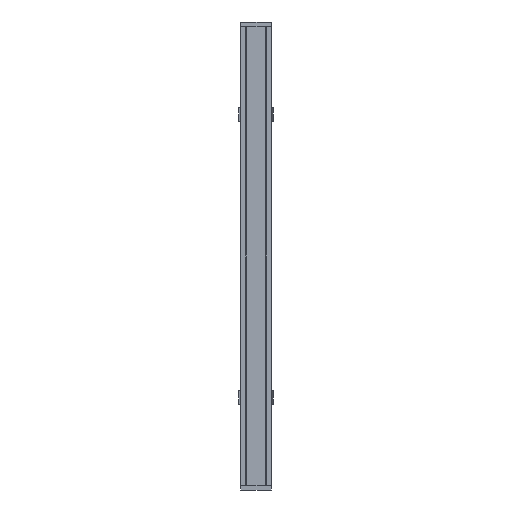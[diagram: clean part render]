
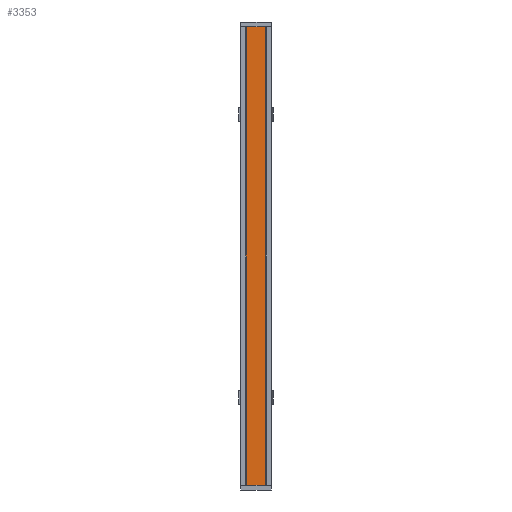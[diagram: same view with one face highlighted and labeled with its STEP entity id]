
A CAD part, front view. The second image highlights one B-rep face of the part: STEP entity #3353.
In plain terms, the highlighted planar face has unit normal (0, -1, 0).
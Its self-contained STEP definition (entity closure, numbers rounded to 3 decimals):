
#180 = ORIENTED_EDGE ( 'NONE', *, *, #4631, .F. ) ;
#300 = VERTEX_POINT ( 'NONE', #4969 ) ;
#352 = LINE ( 'NONE', #8839, #8282 ) ;
#551 = DIRECTION ( 'NONE',  ( 0., 0., -1. ) ) ;
#902 = ORIENTED_EDGE ( 'NONE', *, *, #5604, .T. ) ;
#1052 = CARTESIAN_POINT ( 'NONE',  ( 23.6, 1., 562. ) ) ;
#1186 = PLANE ( 'NONE',  #6469 ) ;
#1262 = CARTESIAN_POINT ( 'NONE',  ( -23.6, 1., -562. ) ) ;
#1294 = DIRECTION ( 'NONE',  ( 1., 0., 0. ) ) ;
#1859 = CARTESIAN_POINT ( 'NONE',  ( -23.6, 1., 562. ) ) ;
#2216 = DIRECTION ( 'NONE',  ( 0., 1., 0. ) ) ;
#2525 = VECTOR ( 'NONE', #551, 1000. ) ;
#2900 = VERTEX_POINT ( 'NONE', #1859 ) ;
#3353 = ADVANCED_FACE ( 'NONE', ( #6978 ), #1186, .F. ) ;
#3464 = EDGE_CURVE ( 'NONE', #300, #9661, #6385, .T. ) ;
#3507 = ORIENTED_EDGE ( 'NONE', *, *, #9556, .F. ) ;
#3740 = EDGE_LOOP ( 'NONE', ( #9741, #3507, #180, #902 ) ) ;
#4083 = DIRECTION ( 'NONE',  ( 0., 0., 1. ) ) ;
#4091 = VERTEX_POINT ( 'NONE', #1052 ) ;
#4631 = EDGE_CURVE ( 'NONE', #2900, #4091, #11059, .T. ) ;
#4969 = CARTESIAN_POINT ( 'NONE',  ( -23.6, 1., -562. ) ) ;
#5604 = EDGE_CURVE ( 'NONE', #2900, #300, #8920, .T. ) ;
#6385 = LINE ( 'NONE', #1262, #10361 ) ;
#6469 = AXIS2_PLACEMENT_3D ( 'NONE', #7664, #2216, #4083 ) ;
#6978 = FACE_OUTER_BOUND ( 'NONE', #3740, .T. ) ;
#7130 = DIRECTION ( 'NONE',  ( 0., 0., -1. ) ) ;
#7664 = CARTESIAN_POINT ( 'NONE',  ( -23.6, 1., 562. ) ) ;
#7982 = CARTESIAN_POINT ( 'NONE',  ( -23.6, 1., 562. ) ) ;
#8282 = VECTOR ( 'NONE', #7130, 1000. ) ;
#8839 = CARTESIAN_POINT ( 'NONE',  ( 23.6, 1., 562. ) ) ;
#8920 = LINE ( 'NONE', #11447, #2525 ) ;
#9556 = EDGE_CURVE ( 'NONE', #4091, #9661, #352, .T. ) ;
#9661 = VERTEX_POINT ( 'NONE', #9738 ) ;
#9738 = CARTESIAN_POINT ( 'NONE',  ( 23.6, 1., -562. ) ) ;
#9741 = ORIENTED_EDGE ( 'NONE', *, *, #3464, .T. ) ;
#10045 = VECTOR ( 'NONE', #11003, 1000. ) ;
#10361 = VECTOR ( 'NONE', #1294, 1000. ) ;
#11003 = DIRECTION ( 'NONE',  ( 1., 0., 0. ) ) ;
#11059 = LINE ( 'NONE', #7982, #10045 ) ;
#11447 = CARTESIAN_POINT ( 'NONE',  ( -23.6, 1., 562. ) ) ;
